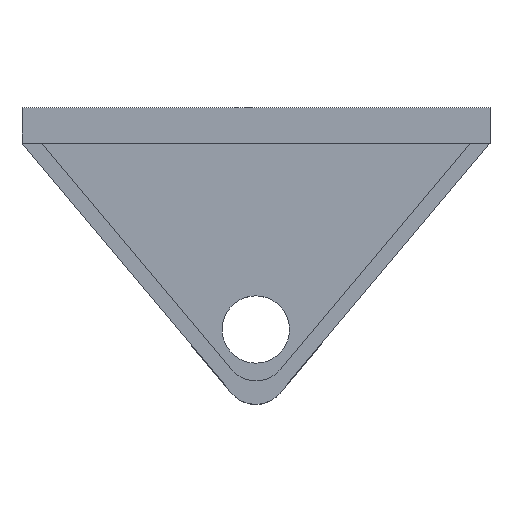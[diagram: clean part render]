
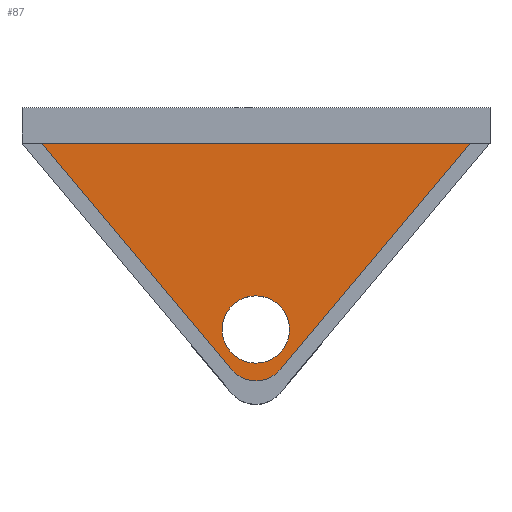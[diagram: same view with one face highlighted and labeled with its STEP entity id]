
A CAD part, top view. The second image highlights one B-rep face of the part: STEP entity #87.
In plain terms, the highlighted planar face has unit normal (0, 0, 1).
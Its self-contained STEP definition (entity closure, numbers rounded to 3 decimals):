
#4 = VERTEX_POINT ( 'NONE', #522 ) ;
#38 = AXIS2_PLACEMENT_3D ( 'NONE', #525, #286, #541 ) ;
#54 = CIRCLE ( 'NONE', #144, 4.25 ) ;
#82 = ORIENTED_EDGE ( 'NONE', *, *, #475, .F. ) ;
#87 = ADVANCED_FACE ( 'NONE', ( #349, #662 ), #207, .T. ) ;
#107 = EDGE_LOOP ( 'NONE', ( #589, #397 ) ) ;
#126 = ORIENTED_EDGE ( 'NONE', *, *, #598, .T. ) ;
#134 = EDGE_CURVE ( 'NONE', #285, #200, #54, .T. ) ;
#142 = DIRECTION ( 'NONE',  ( 0., 0., 1. ) ) ;
#144 = AXIS2_PLACEMENT_3D ( 'NONE', #468, #142, #539 ) ;
#145 = VERTEX_POINT ( 'NONE', #300 ) ;
#155 = CARTESIAN_POINT ( 'NONE',  ( -11.19, -15.8, 7.5 ) ) ;
#158 = VERTEX_POINT ( 'NONE', #268 ) ;
#164 = VECTOR ( 'NONE', #560, 1000. ) ;
#180 = LINE ( 'NONE', #617, #164 ) ;
#185 = DIRECTION ( 'NONE',  ( 0., 0., 1. ) ) ;
#200 = VERTEX_POINT ( 'NONE', #618 ) ;
#207 = PLANE ( 'NONE',  #38 ) ;
#215 = CARTESIAN_POINT ( 'NONE',  ( 15.861, 7.698, 7.5 ) ) ;
#268 = CARTESIAN_POINT ( 'NONE',  ( 15.861, 7.698, 7.5 ) ) ;
#273 = CARTESIAN_POINT ( 'NONE',  ( -11.168, -18.291, 7.5 ) ) ;
#277 = CARTESIAN_POINT ( 'NONE',  ( 15.861, 7.698, 7.5 ) ) ;
#285 = VERTEX_POINT ( 'NONE', #449 ) ;
#286 = DIRECTION ( 'NONE',  ( 0., 0., 1. ) ) ;
#299 = ORIENTED_EDGE ( 'NONE', *, *, #562, .T. ) ;
#300 = CARTESIAN_POINT ( 'NONE',  ( -8.104, -20.862, 7.5 ) ) ;
#303 = VECTOR ( 'NONE', #689, 1000. ) ;
#346 = AXIS2_PLACEMENT_3D ( 'NONE', #273, #185, #577 ) ;
#349 = FACE_BOUND ( 'NONE', #107, .T. ) ;
#351 = CARTESIAN_POINT ( 'NONE',  ( -38.182, 7.698, 7.5 ) ) ;
#357 = CIRCLE ( 'NONE', #661, 4.25 ) ;
#397 = ORIENTED_EDGE ( 'NONE', *, *, #674, .F. ) ;
#403 = ORIENTED_EDGE ( 'NONE', *, *, #563, .T. ) ;
#412 = EDGE_LOOP ( 'NONE', ( #403, #299, #82, #126 ) ) ;
#426 = DIRECTION ( 'NONE',  ( -0.643, -0.766, 0. ) ) ;
#449 = CARTESIAN_POINT ( 'NONE',  ( -15.44, -15.8, 7.5 ) ) ;
#451 = DIRECTION ( 'NONE',  ( 1., 0., 0. ) ) ;
#468 = CARTESIAN_POINT ( 'NONE',  ( -11.19, -15.8, 7.5 ) ) ;
#475 = EDGE_CURVE ( 'NONE', #158, #145, #494, .T. ) ;
#494 = LINE ( 'NONE', #215, #629 ) ;
#516 = CIRCLE ( 'NONE', #346, 4. ) ;
#522 = CARTESIAN_POINT ( 'NONE',  ( -14.233, -20.861, 7.5 ) ) ;
#525 = CARTESIAN_POINT ( 'NONE',  ( 0., 0., 7.5 ) ) ;
#539 = DIRECTION ( 'NONE',  ( 1., 0., 0. ) ) ;
#541 = DIRECTION ( 'NONE',  ( 1., 0., 0. ) ) ;
#550 = DIRECTION ( 'NONE',  ( 0., 0., 1. ) ) ;
#560 = DIRECTION ( 'NONE',  ( 0.643, -0.766, 0. ) ) ;
#562 = EDGE_CURVE ( 'NONE', #4, #145, #516, .T. ) ;
#563 = EDGE_CURVE ( 'NONE', #573, #4, #180, .T. ) ;
#573 = VERTEX_POINT ( 'NONE', #351 ) ;
#577 = DIRECTION ( 'NONE',  ( 1., 0., 0. ) ) ;
#589 = ORIENTED_EDGE ( 'NONE', *, *, #134, .F. ) ;
#593 = LINE ( 'NONE', #277, #303 ) ;
#598 = EDGE_CURVE ( 'NONE', #158, #573, #593, .T. ) ;
#617 = CARTESIAN_POINT ( 'NONE',  ( -38.182, 7.698, 7.5 ) ) ;
#618 = CARTESIAN_POINT ( 'NONE',  ( -6.94, -15.8, 7.5 ) ) ;
#629 = VECTOR ( 'NONE', #426, 1000. ) ;
#661 = AXIS2_PLACEMENT_3D ( 'NONE', #155, #550, #451 ) ;
#662 = FACE_OUTER_BOUND ( 'NONE', #412, .T. ) ;
#674 = EDGE_CURVE ( 'NONE', #200, #285, #357, .T. ) ;
#689 = DIRECTION ( 'NONE',  ( -1., 0., 0. ) ) ;
